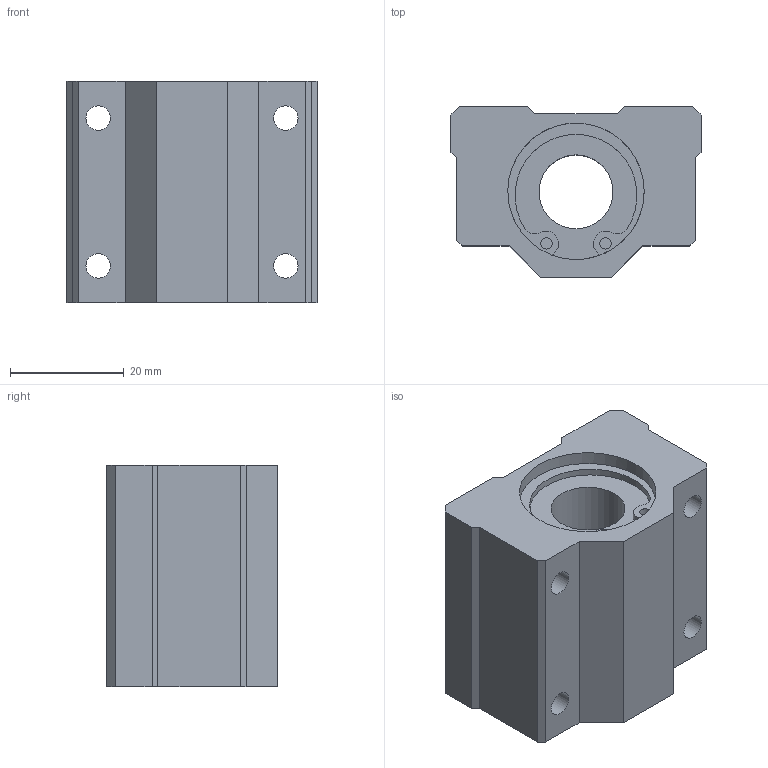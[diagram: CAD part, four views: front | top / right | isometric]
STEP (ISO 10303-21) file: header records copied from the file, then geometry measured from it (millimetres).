
FILE_DESCRIPTION(('STEP AP203'),'1');
FILE_NAME('//192.168.1.1/share/s-4 技術開発/s-4-4_CAD/s-4-4-3_見直し済み/008 修正済み/LC-A/LC-A_TOP/LC-13VAUU.step','2022-05-19T01:37:45',(' '),(' '),'Spatial InterOp 3D',' ',' ');
FILE_SCHEMA(('CONFIG_CONTROL_DESIGN'));
Length unit declared in the file: millimetre
Products named in the file (1): 1
Bounding box: 44 x 30 x 39 mm (x, y, z)
Volume: 35170.5 mm3; surface area: 10451.7 mm2
Topology: 1 solids, 1 shells, 63 faces, 165 edges, 110 vertices
Faces by surface type: plane 34, cylinder 29
Full cylindrical faces by diameter (mm): 2 x4, 4.3 x8, 13 x1, 24 x2
Entity records: 1890 total; most frequent: DIRECTION 328, CARTESIAN_POINT 312, ORIENTED_EDGE 288, EDGE_CURVE 144, AXIS2_PLACEMENT_3D 120, VERTEX_POINT 104, EDGE_LOOP 94, LINE 88
